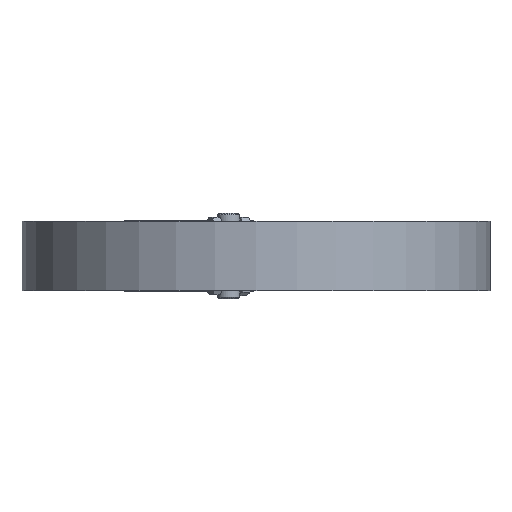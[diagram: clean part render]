
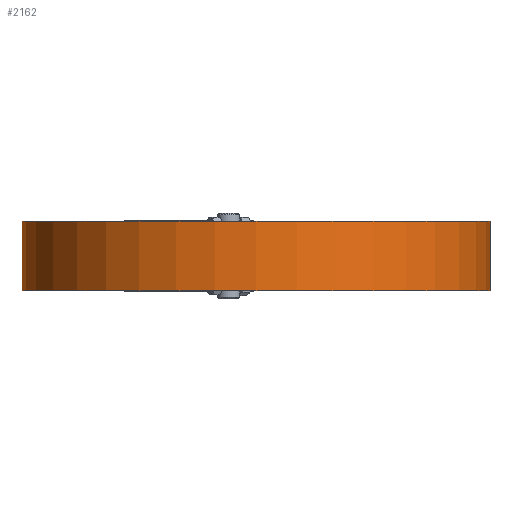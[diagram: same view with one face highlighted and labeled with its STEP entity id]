
A CAD part, front view. The second image highlights one B-rep face of the part: STEP entity #2162.
In plain terms, the highlighted cylindrical face has radius 101.5 mm (diameter 203 mm), a partial arc.
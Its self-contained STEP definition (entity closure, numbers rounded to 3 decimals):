
#631 = DIRECTION ( 'NONE',  ( -1., 0., 0. ) ) ;
#719 = AXIS2_PLACEMENT_3D ( 'NONE', #25160, #2392, #12509 ) ;
#1433 = VERTEX_POINT ( 'NONE', #17799 ) ;
#2162 = ADVANCED_FACE ( 'NONE', ( #25899 ), #3117, .T. ) ;
#2392 = DIRECTION ( 'NONE',  ( 0., 0., 1. ) ) ;
#3117 = CYLINDRICAL_SURFACE ( 'NONE', #22392, 101.5 ) ;
#4271 = VERTEX_POINT ( 'NONE', #26330 ) ;
#5123 = VERTEX_POINT ( 'NONE', #10689 ) ;
#5161 = DIRECTION ( 'NONE',  ( 0., 0., 1. ) ) ;
#5384 = DIRECTION ( 'NONE',  ( 0., 0., -1. ) ) ;
#7344 = ORIENTED_EDGE ( 'NONE', *, *, #22017, .T. ) ;
#9467 = DIRECTION ( 'NONE',  ( 0., 0., -1. ) ) ;
#9754 = AXIS2_PLACEMENT_3D ( 'NONE', #27954, #5161, #15285 ) ;
#10689 = CARTESIAN_POINT ( 'NONE',  ( 101.5, 0., -15. ) ) ;
#12354 = VECTOR ( 'NONE', #9467, 1000. ) ;
#12509 = DIRECTION ( 'NONE',  ( 1., 0., 0. ) ) ;
#12829 = EDGE_CURVE ( 'NONE', #4271, #13329, #18001, .T. ) ;
#13230 = CARTESIAN_POINT ( 'NONE',  ( 0., 0., 15. ) ) ;
#13329 = VERTEX_POINT ( 'NONE', #14287 ) ;
#14287 = CARTESIAN_POINT ( 'NONE',  ( -101.5, 0., -15. ) ) ;
#14445 = LINE ( 'NONE', #32260, #12354 ) ;
#15010 = CIRCLE ( 'NONE', #719, 101.5 ) ;
#15285 = DIRECTION ( 'NONE',  ( 1., 0., 0. ) ) ;
#17799 = CARTESIAN_POINT ( 'NONE',  ( 101.5, 0., 15. ) ) ;
#18001 = LINE ( 'NONE', #28178, #31900 ) ;
#20574 = EDGE_CURVE ( 'NONE', #4271, #1433, #15010, .T. ) ;
#21599 = ORIENTED_EDGE ( 'NONE', *, *, #12829, .T. ) ;
#22017 = EDGE_CURVE ( 'NONE', #13329, #5123, #24098, .T. ) ;
#22392 = AXIS2_PLACEMENT_3D ( 'NONE', #13230, #23385, #631 ) ;
#23385 = DIRECTION ( 'NONE',  ( 0., 0., -1. ) ) ;
#24098 = CIRCLE ( 'NONE', #9754, 101.5 ) ;
#25160 = CARTESIAN_POINT ( 'NONE',  ( 0., 0., 15. ) ) ;
#25899 = FACE_OUTER_BOUND ( 'NONE', #27425, .T. ) ;
#26330 = CARTESIAN_POINT ( 'NONE',  ( -101.5, 0., 15. ) ) ;
#27164 = ORIENTED_EDGE ( 'NONE', *, *, #20574, .F. ) ;
#27425 = EDGE_LOOP ( 'NONE', ( #29010, #27164, #21599, #7344 ) ) ;
#27954 = CARTESIAN_POINT ( 'NONE',  ( 0., 0., -15. ) ) ;
#28178 = CARTESIAN_POINT ( 'NONE',  ( -101.5, 0., 15. ) ) ;
#29010 = ORIENTED_EDGE ( 'NONE', *, *, #32455, .F. ) ;
#31900 = VECTOR ( 'NONE', #5384, 1000. ) ;
#32260 = CARTESIAN_POINT ( 'NONE',  ( 101.5, 0., 15. ) ) ;
#32455 = EDGE_CURVE ( 'NONE', #1433, #5123, #14445, .T. ) ;
